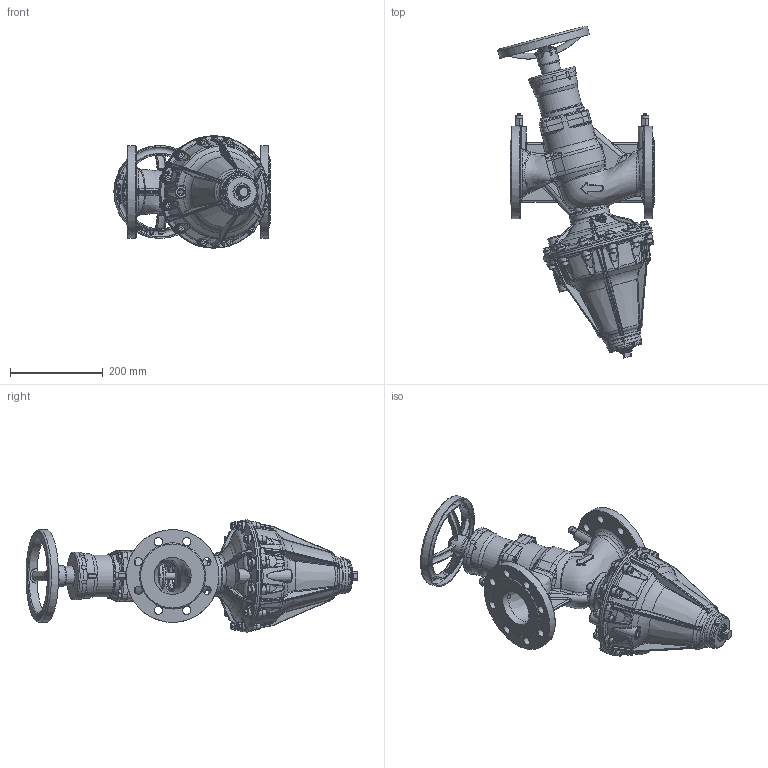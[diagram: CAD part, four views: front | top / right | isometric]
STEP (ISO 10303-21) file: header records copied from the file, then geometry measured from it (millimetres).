
FILE_DESCRIPTION (( 'STEP AP203' ), '1' );
FILE_NAME ('EKOFLUX.M_DN080.STEP', '2013-01-18T07:51:44', ( 'luca.saino' ), ( 'Hewlett-Packard Company' ), 'SwSTEP 2.0', 'SolidWorks 2012', '' );
FILE_SCHEMA (( 'CONFIG_CONTROL_DESIGN' ));
Length unit declared in the file: millimetre
Products named in the file (1): EKOFLUX.M_DN080
Bounding box: 336.64 x 715.53 x 241.52 mm (x, y, z)
Volume: 9675570.4 mm3; surface area: 782074.9 mm2
Topology: 1 solids, 30 shells, 3381 faces, 8222 edges, 4906 vertices
Faces by surface type: bspline 1234, plane 801, cylinder 559, cone 487, torus 264, sphere 36
Full cylindrical faces by diameter (mm): 2 x2, 5 x2, 5.71 x4, 6.5 x2, 6.75 x3, 8 x12, 8.2 x4, 8.5 x14, 10 x2, 11.44 x4, 14.96 x1, 15 x5, 16 x3, 18 x16, 20 x1, 22 x2, 23.9 x1, 25 x2, 25.1 x1, 36 x1, 37.96 x1, 42 x1, 45 x1, 56 x1, 65 x1, 70 x1, 73 x1, 73.1 x1, 77 x1, 78 x1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
Entity records: 171689 total; most frequent: CARTESIAN_POINT 105259, ORIENTED_EDGE 15660, DIRECTION 11057, EDGE_CURVE 7830, VERTEX_POINT 4760, AXIS2_PLACEMENT_3D 4684, EDGE_LOOP 3702, FACE_OUTER_BOUND 3505
